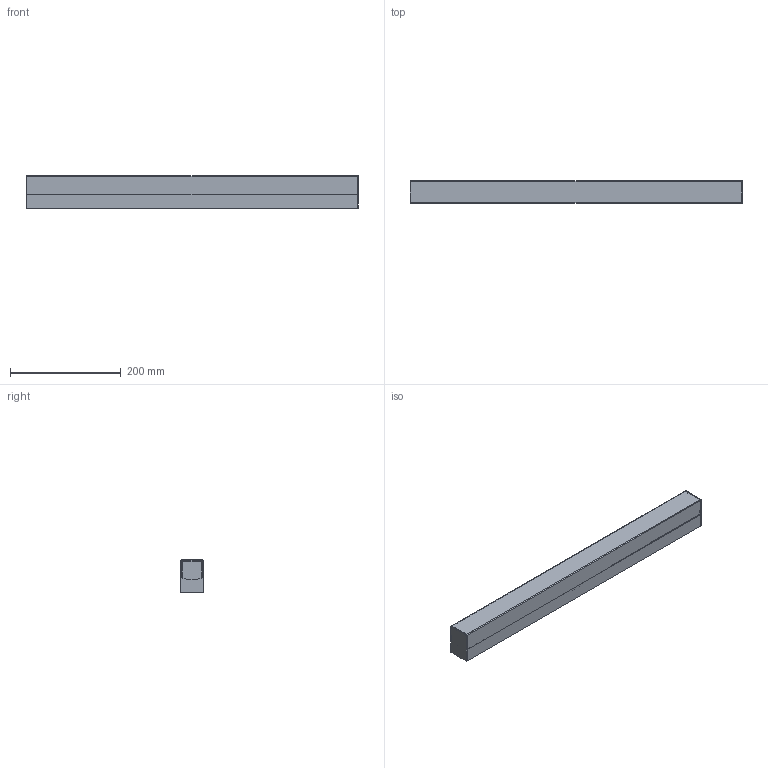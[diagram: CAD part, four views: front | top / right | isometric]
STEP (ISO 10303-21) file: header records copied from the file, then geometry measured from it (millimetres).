
FILE_DESCRIPTION(/* description */ (''),/* implementation_level */ '2;1');
FILE_NAME(/* name */ 'C:\Users\FrancoSartori\Documents\FARO\01_En Proceso\00_NILO\03_Publicación\63318.stp',/* time_stamp */ '2021-05-26T09:23:27+02:00',/* author */ ('FrancoSartori'),/* organization */ (''),/* preprocessor_version */ 'ST-DEVELOPER v18.1',/* originating_system */ 'AutoCAD Mechanical',/* authorisation */ '');
FILE_SCHEMA (('AUTOMOTIVE_DESIGN { 1 0 10303 214 3 1 1 }'));
Length unit declared in the file: millimetre
Products named in the file (2): Product; 63318_ 63319_ 63316_ 63317_ - Lamp-464475-Export
Assembly tree (1 placements, depth 2):
  Product
    63318_ 63319_ 63316_ 63317_ - Lamp-464475-Export
Bounding box: 600 x 40 x 58 mm (x, y, z)
Volume: 558881.3 mm3; surface area: 244738.8 mm2
Topology: 3 solids, 7 shells, 111 faces, 357 edges, 238 vertices
Faces by surface type: plane 93, cylinder 18
Entity records: 4077 total; most frequent: CARTESIAN_POINT 901, ORIENTED_EDGE 650, DIRECTION 605, EDGE_CURVE 357, LINE 289, VECTOR 289, VERTEX_POINT 238, AXIS2_PLACEMENT_3D 158
